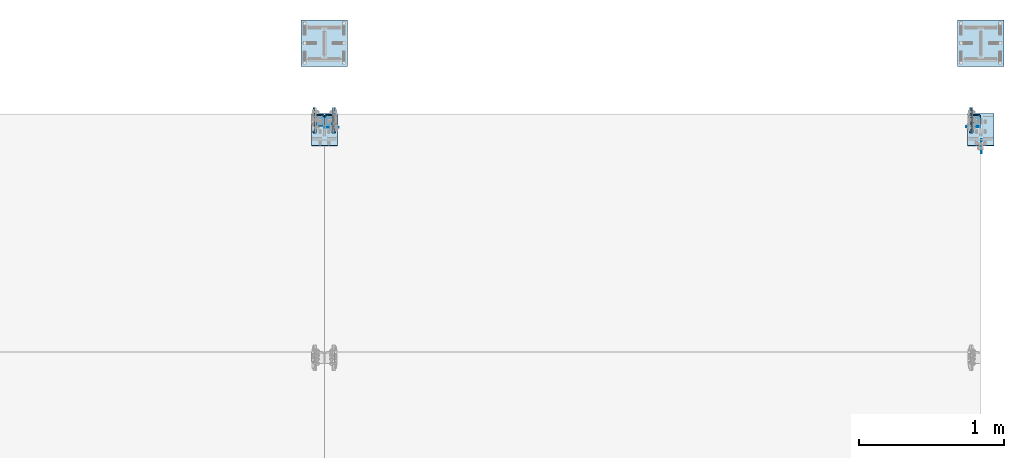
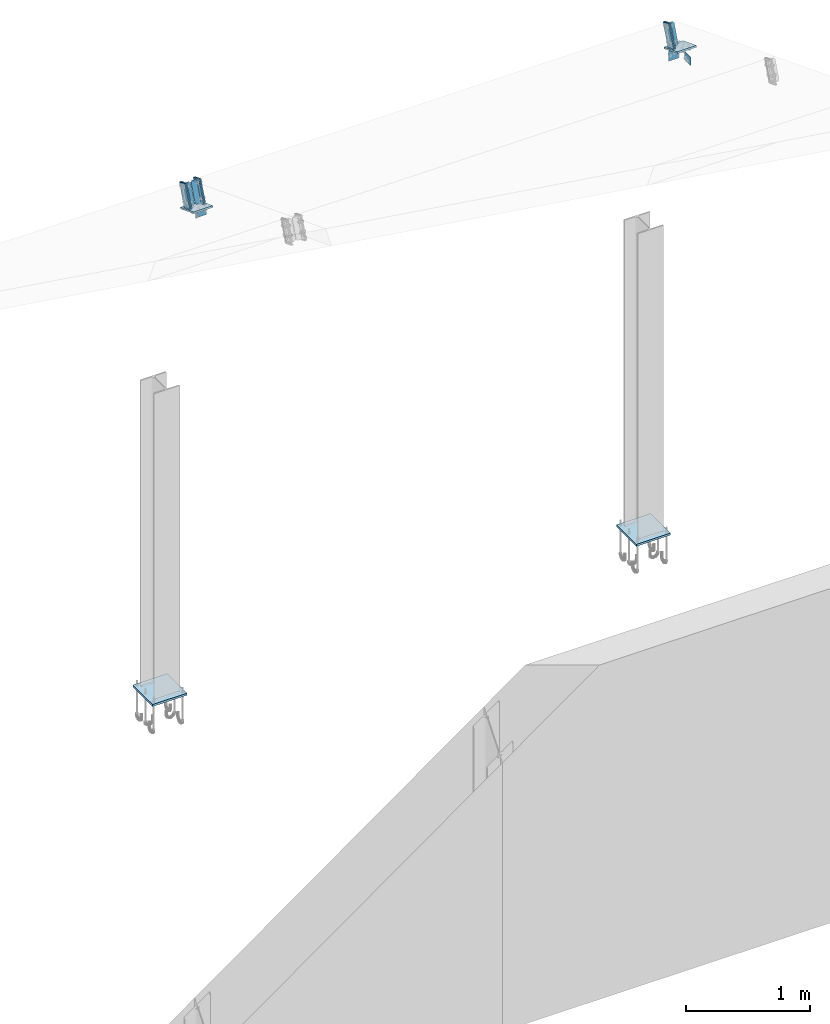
# One storey, part 7 of 72: 16 plates.
"""IFC4 building model written with IfcOpenShell, lengths in metres."""

from ifc_helpers import new_model, si_unit, frame, origin_with_axes, place, context, project, spatial, polyline, outline, extrude, type_object, element, save


model = new_model("IFC4")

# Units and contexts
model_context = context("Model", 3, precision=1e-05, world=origin_with_axes())
ifc_project = project(units=[si_unit("LENGTHUNIT", "METRE"), si_unit("AREAUNIT", "SQUARE_METRE"), si_unit("VOLUMEUNIT", "CUBIC_METRE"), si_unit("MASSUNIT", "GRAM", prefix="KILO"), si_unit("TIMEUNIT", "SECOND"), si_unit("PLANEANGLEUNIT", "RADIAN"), si_unit("SOLIDANGLEUNIT", "STERADIAN"), si_unit("THERMODYNAMICTEMPERATUREUNIT", "DEGREE_CELSIUS")], contexts=[model_context])

# Site, building, storey
placement_1 = place(None, origin_with_axes())
site = spatial("IfcSite", under=ifc_project, at=placement_1, Name="Italia", CompositionType="ELEMENT")
building = spatial("IfcBuilding", under=site, at=placement_1, Name="Uffici", CompositionType="ELEMENT")
storey = spatial("IfcBuildingStorey", under=building, at=placement_1, Name="Storey 0", CompositionType="ELEMENT", Elevation=0.0)

# Plates
plate_type_1 = type_object("IfcPlateType", Name="Collegamenti 0001_0101 0002_0102 0003_0103 0004_0104 0005_0105 0011_0111 0012_0112 0013_0113 0014_0114 0015_0115", PredefinedType="SHEET")
placement_2 = place(placement_1, origin_with_axes())
plate_1_placement = place(placement_2, origin_with_axes())
element("IfcPlate", 1, at=plate_1_placement, inside=storey, type_object=plate_type_1, Name="Collegamenti 0001_0101 0002_0102 0003_0103 0004_0104 0005_0105 0011_0111 0012_0112 0013_0113 0014_0114 0015_0115", context=model_context, shape_type="SweptSolid", body=[
    extrude(outline(polyline([(0.0, 0.0), (0.0, 0.32), (0.32, 0.32), (0.32, 0.0), (0.0, 0.0)])), frame((9.295, 5.23, 0.02), z_axis=(0.0, 0.0, -1.0), x_axis=(0.0, 1.0, 0.0)), (0.0, 0.0, 1.0), 0.02),
])
plate_type_2 = type_object("IfcPlateType", Name="Collegamenti 0001_0101 0002_0102 0003_0103 0004_0104 0005_0105 0011_0111 0012_0112 0013_0113 0014_0114 0015_0115", PredefinedType="SHEET")
plate_2_placement = place(placement_2, origin_with_axes())
element("IfcPlate", 2, at=plate_2_placement, inside=storey, type_object=plate_type_2, Name="Collegamenti 0001_0101 0002_0102 0003_0103 0004_0104 0005_0105 0011_0111 0012_0112 0013_0113 0014_0114 0015_0115", context=model_context, shape_type="SweptSolid", body=[
    extrude(outline(polyline([(0.0, 0.0), (0.0, 0.32), (0.32, 0.32), (0.32, 0.0), (0.0, 0.0)])), frame((13.81, 5.23, 0.02), z_axis=(0.0, 0.0, -1.0), x_axis=(0.0, 1.0, 0.0)), (0.0, 0.0, 1.0), 0.02),
])
plate_type_3 = type_object("IfcPlateType", Name="Collegamento 0209_0109", PredefinedType="SHEET")
plate_3_placement = place(placement_2, origin_with_axes())
element("IfcPlate", 3, at=plate_3_placement, inside=storey, type_object=plate_type_3, Name="Collegamento 0209_0109", context=model_context, shape_type="SweptSolid", body=[
    extrude(outline(polyline([(0.0, 0.0), (0.18, 0.0), (0.18, -0.233401), (0.0, -0.233401), (0.0, 0.0)])), frame((9.545, 4.68239, 5.17233), z_axis=(0.0, 0.361514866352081, 0.93236631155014), x_axis=(-1.0, 0.0, 0.0)), (0.0, 0.0, 1.0), 0.0149996),
])
plate_type_4 = type_object("IfcPlateType", Name="Collegamento 0209_0110", PredefinedType="SHEET")
plate_4_placement = place(placement_2, origin_with_axes())
element("IfcPlate", 4, at=plate_4_placement, inside=storey, type_object=plate_type_4, Name="Collegamento 0209_0110", context=model_context, shape_type="SweptSolid", body=[
    extrude(outline(polyline([(0.0, 0.0), (0.0949993, 4.76837e-07), (0.0949993, -0.099999), (-9.53674e-07, -0.0999994), (0.0, 0.0)])), frame((9.553, 4.8075, 5.12201), z_axis=(0.0, 1.0, 0.0), x_axis=(-1.0, 0.0, 0.0)), (0.0, 0.0, 1.0), 0.00500011),
])
plate_type_5 = type_object("IfcPlateType", Name="Collegamento 0209_0208", PredefinedType="SHEET")
plate_5_placement = place(placement_2, origin_with_axes())
element("IfcPlate", 5, at=plate_5_placement, inside=storey, type_object=plate_type_5, Name="Collegamento 0209_0208", context=model_context, shape_type="SweptSolid", body=[
    extrude(outline(polyline([(0.0, 0.0), (-0.0932388, 0.0361462), (-0.0136724, 0.241388), (0.0795665, 0.205242), (0.0, 0.0)])), frame((9.39, 4.8671, 5.1168), z_axis=(1.0, 0.0, 0.0), x_axis=(0.0, 1.0, 0.0)), (0.0, 0.0, 1.0), 0.0100002),
])
plate_type_6 = type_object("IfcPlateType", Name="Collegamento 0209_0208", PredefinedType="SHEET")
plate_6_placement = place(placement_2, origin_with_axes())
element("IfcPlate", 6, at=plate_6_placement, inside=storey, type_object=plate_type_6, Name="Collegamento 0209_0208", context=model_context, shape_type="SweptSolid", body=[
    extrude(outline(polyline([(0.0, 0.0), (-0.0932388, 0.0361462), (-0.0137172, 0.241272), (0.0795217, 0.205126), (0.0, 0.0)])), frame((9.38, 4.8671, 5.1168), z_axis=(1.0, 0.0, 0.0), x_axis=(0.0, 1.0, 0.0)), (0.0, 0.0, 1.0), 0.0100002),
])
plate_type_7 = type_object("IfcPlateType", Name="Collegamento 0209_0208", PredefinedType="SHEET")
plate_7_placement = place(placement_2, origin_with_axes())
element("IfcPlate", 7, at=plate_7_placement, inside=storey, type_object=plate_type_7, Name="Collegamento 0209_0208", context=model_context, shape_type="SweptSolid", body=[
    extrude(outline(polyline([(0.0, 0.0), (0.0400496, 0.0), (0.0520496, 0.0120001), (0.0520496, 0.1896), (0.0400496, 0.2016), (0.0, 0.2016), (0.0, 0.0)])), frame((9.4, 4.82851, 5.14176), z_axis=(0.0, -0.932389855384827, 0.361454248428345), x_axis=(1.0, 0.0, 0.0)), (0.0, 0.0, 1.0), 0.00999968),
])
plate_type_8 = type_object("IfcPlateType", Name="Collegamento 0209_0210", PredefinedType="SHEET")
plate_8_placement = place(placement_2, origin_with_axes())
element("IfcPlate", 8, at=plate_8_placement, inside=storey, type_object=plate_type_8, Name="Collegamento 0209_0210", context=model_context, shape_type="SweptSolid", body=[
    extrude(outline(polyline([(0.0, 0.0), (-0.0932388, -0.0361462), (-0.172805, 0.169096), (-0.0795665, 0.205242), (0.0, 0.0)])), frame((9.52, 4.77386, 5.15295), z_axis=(-1.0, 0.0, 0.0), x_axis=(0.0, -1.0, 0.0)), (0.0, 0.0, 1.0), 0.0100002),
])
plate_type_9 = type_object("IfcPlateType", Name="Collegamento 0209_0210", PredefinedType="SHEET")
plate_9_placement = place(placement_2, origin_with_axes())
element("IfcPlate", 9, at=plate_9_placement, inside=storey, type_object=plate_type_9, Name="Collegamento 0209_0210", context=model_context, shape_type="SweptSolid", body=[
    extrude(outline(polyline([(0.0, 0.0), (-0.0932388, -0.0361462), (-0.17276, 0.16898), (-0.0795217, 0.205126), (0.0, 0.0)])), frame((9.53, 4.77386, 5.15295), z_axis=(-1.0, 0.0, 0.0), x_axis=(0.0, -1.0, 0.0)), (0.0, 0.0, 1.0), 0.0100002),
])
plate_type_10 = type_object("IfcPlateType", Name="Collegamento 0209_0210", PredefinedType="SHEET")
plate_10_placement = place(placement_2, origin_with_axes())
element("IfcPlate", 10, at=plate_10_placement, inside=storey, type_object=plate_type_10, Name="Collegamento 0209_0210", context=model_context, shape_type="SweptSolid", body=[
    extrude(outline(polyline([(0.0, 0.0), (0.0400496, 0.0), (0.0520496, 0.0119996), (0.0520496, 0.1896), (0.0400496, 0.2016), (0.0, 0.2016), (0.0, 0.0)])), frame((9.51, 4.81919, 5.14538), z_axis=(0.0, 0.932389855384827, -0.361454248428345), x_axis=(-1.0, 0.0, 0.0)), (0.0, 0.0, 1.0), 0.00999968),
])
plate_type_11 = type_object("IfcPlateType", Name="Collegamento 0210_0105", PredefinedType="SHEET")
plate_11_placement = place(placement_2, origin_with_axes())
element("IfcPlate", 11, at=plate_11_placement, inside=storey, type_object=plate_type_11, Name="Collegamento 0210_0105", context=model_context, shape_type="SweptSolid", body=[
    extrude(outline(polyline([(0.0, 0.0), (-0.0940003, 4.76837e-07), (-0.0939999, -0.0819998), (0.0, -0.0820003), (0.0, 0.0)])), frame((13.9775, 4.635, 5.13012), z_axis=(-1.0, 0.0, 0.0), x_axis=(0.0, -1.0, 0.0)), (0.0, 0.0, 1.0), 0.00500011),
])
plate_type_12 = type_object("IfcPlateType", Name="Collegamento 0210_0109", PredefinedType="SHEET")
plate_12_placement = place(placement_2, origin_with_axes())
element("IfcPlate", 12, at=plate_12_placement, inside=storey, type_object=plate_type_12, Name="Collegamento 0210_0109", context=model_context, shape_type="SweptSolid", body=[
    extrude(outline(polyline([(0.0, 0.0), (-0.0950003, -4.76837e-07), (-0.0950003, -0.100001), (0.0, -0.1), (0.0, 0.0)])), frame((13.872, 4.8125, 5.12002), z_axis=(0.0, 1.0, 0.0), x_axis=(-1.0, 0.0, 0.0)), (0.0, 0.0, 1.0), 0.00500011),
])
plate_type_13 = type_object("IfcPlateType", Name="Collegamento 0210_0110", PredefinedType="SHEET")
plate_13_placement = place(placement_2, origin_with_axes())
element("IfcPlate", 13, at=plate_13_placement, inside=storey, type_object=plate_type_13, Name="Collegamento 0210_0110", context=model_context, shape_type="SweptSolid", body=[
    extrude(outline(polyline([(0.0, 0.0), (0.18, 0.0), (0.18, -0.23341), (0.0, -0.23341), (0.0, 0.0)])), frame((14.06, 4.68238, 5.17234), z_axis=(0.0, 0.361531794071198, 0.932359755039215), x_axis=(-1.0, 0.0, 0.0)), (0.0, 0.0, 1.0), 0.0150003),
])
plate_type_14 = type_object("IfcPlateType", Name="Collegamento 0210_0209", PredefinedType="SHEET")
plate_14_placement = place(placement_2, origin_with_axes())
element("IfcPlate", 14, at=plate_14_placement, inside=storey, type_object=plate_type_14, Name="Collegamento 0210_0209", context=model_context, shape_type="SweptSolid", body=[
    extrude(outline(polyline([(0.0, 0.0), (-0.0932388, 0.0361462), (-0.0136724, 0.241388), (0.0795665, 0.205242), (0.0, 0.0)])), frame((13.905, 4.8671, 5.1168), z_axis=(1.0, 0.0, 0.0), x_axis=(0.0, 1.0, 0.0)), (0.0, 0.0, 1.0), 0.0100002),
])
plate_type_15 = type_object("IfcPlateType", Name="Collegamento 0210_0209", PredefinedType="SHEET")
plate_15_placement = place(placement_2, origin_with_axes())
element("IfcPlate", 15, at=plate_15_placement, inside=storey, type_object=plate_type_15, Name="Collegamento 0210_0209", context=model_context, shape_type="SweptSolid", body=[
    extrude(outline(polyline([(0.0, 0.0), (-0.0932388, 0.0361462), (-0.0137172, 0.241272), (0.0795217, 0.205126), (0.0, 0.0)])), frame((13.895, 4.8671, 5.1168), z_axis=(1.0, 0.0, 0.0), x_axis=(0.0, 1.0, 0.0)), (0.0, 0.0, 1.0), 0.0100002),
])
plate_type_16 = type_object("IfcPlateType", Name="Collegamento 0210_0209", PredefinedType="SHEET")
plate_16_placement = place(placement_2, origin_with_axes())
element("IfcPlate", 16, at=plate_16_placement, inside=storey, type_object=plate_type_16, Name="Collegamento 0210_0209", context=model_context, shape_type="SweptSolid", body=[
    extrude(outline(polyline([(0.0, 0.0), (0.0400496, 0.0), (0.0520496, 0.0120001), (0.0520496, 0.1896), (0.0400496, 0.2016), (0.0, 0.2016), (0.0, 0.0)])), frame((13.915, 4.82851, 5.14176), z_axis=(0.0, -0.932389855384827, 0.361454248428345), x_axis=(1.0, 0.0, 0.0)), (0.0, 0.0, 1.0), 0.00999968),
])

save(model, "model.ifc")
